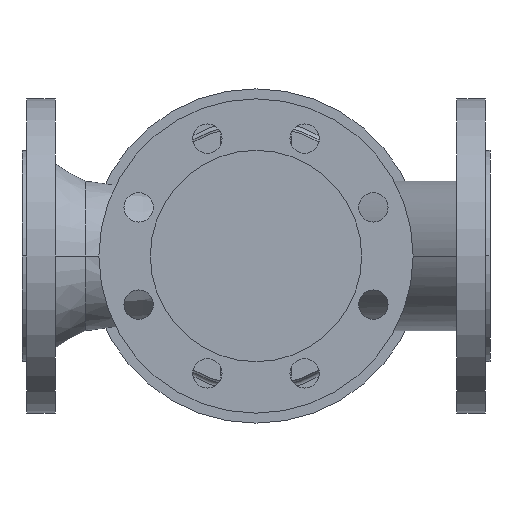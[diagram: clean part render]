
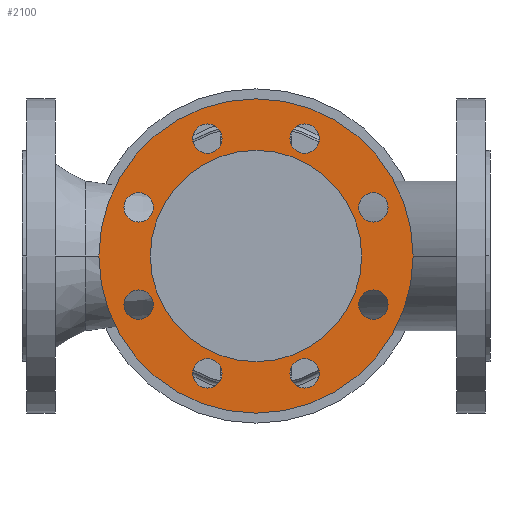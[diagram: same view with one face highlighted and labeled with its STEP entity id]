
A CAD part, front view. The second image highlights one B-rep face of the part: STEP entity #2100.
In plain terms, the highlighted planar face has unit normal (0, -1, 0).
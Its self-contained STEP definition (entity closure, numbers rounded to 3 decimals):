
#550=CARTESIAN_POINT('',(175.,-146.5,0.));
#560=DIRECTION('',(0.,1.,0.));
#570=DIRECTION('',(0.,0.,1.));
#580=AXIS2_PLACEMENT_3D('',#550,#560,#570);
#590=PLANE('',#580);
#600=CARTESIAN_POINT('',(87.231,-146.5,36.355));
#610=DIRECTION('',(0.,1.,0.));
#620=DIRECTION('',(1.,0.,0.));
#630=AXIS2_PLACEMENT_3D('',#600,#610,#620);
#640=CIRCLE('',#630,11.);
#650=CARTESIAN_POINT('',(76.231,-146.5,36.355));
#660=VERTEX_POINT('',#650);
#670=CARTESIAN_POINT('',(98.231,-146.5,36.355));
#680=VERTEX_POINT('',#670);
#690=EDGE_CURVE('',#660,#680,#640,.T.);
#700=ORIENTED_EDGE('',*,*,#690,.T.);
#710=EDGE_CURVE('',#680,#660,#640,.T.);
#720=ORIENTED_EDGE('',*,*,#710,.T.);
#730=EDGE_LOOP('',(#720,#700));
#740=FACE_BOUND('',#730,.T.);
#750=CARTESIAN_POINT('',(87.231,-146.5,-36.355));
#760=DIRECTION('',(0.,1.,0.));
#770=DIRECTION('',(1.,0.,0.));
#780=AXIS2_PLACEMENT_3D('',#750,#760,#770);
#790=CIRCLE('',#780,11.);
#800=CARTESIAN_POINT('',(76.231,-146.5,-36.355));
#810=VERTEX_POINT('',#800);
#820=CARTESIAN_POINT('',(98.231,-146.5,-36.355));
#830=VERTEX_POINT('',#820);
#840=EDGE_CURVE('',#810,#830,#790,.T.);
#850=ORIENTED_EDGE('',*,*,#840,.T.);
#860=EDGE_CURVE('',#830,#810,#790,.T.);
#870=ORIENTED_EDGE('',*,*,#860,.T.);
#880=EDGE_LOOP('',(#870,#850));
#890=FACE_BOUND('',#880,.T.);
#900=CARTESIAN_POINT('',(138.645,-146.5,87.769));
#910=DIRECTION('',(0.,1.,0.));
#920=DIRECTION('',(1.,0.,0.));
#930=AXIS2_PLACEMENT_3D('',#900,#910,#920);
#940=CIRCLE('',#930,11.);
#950=CARTESIAN_POINT('',(149.645,-146.5,87.769));
#960=VERTEX_POINT('',#950);
#970=CARTESIAN_POINT('',(127.645,-146.5,87.769));
#980=VERTEX_POINT('',#970);
#990=EDGE_CURVE('',#960,#980,#940,.T.);
#1000=ORIENTED_EDGE('',*,*,#990,.T.);
#1010=EDGE_CURVE('',#980,#960,#940,.T.);
#1020=ORIENTED_EDGE('',*,*,#1010,.T.);
#1030=EDGE_LOOP('',(#1020,#1000));
#1040=FACE_BOUND('',#1030,.T.);
#1050=CARTESIAN_POINT('',(138.645,-146.5,-87.769));
#1060=DIRECTION('',(0.,1.,0.));
#1070=DIRECTION('',(1.,0.,0.));
#1080=AXIS2_PLACEMENT_3D('',#1050,#1060,#1070);
#1090=CIRCLE('',#1080,11.);
#1100=CARTESIAN_POINT('',(127.645,-146.5,-87.769));
#1110=VERTEX_POINT('',#1100);
#1120=CARTESIAN_POINT('',(149.645,-146.5,-87.769));
#1130=VERTEX_POINT('',#1120);
#1140=EDGE_CURVE('',#1110,#1130,#1090,.T.);
#1150=ORIENTED_EDGE('',*,*,#1140,.T.);
#1160=EDGE_CURVE('',#1130,#1110,#1090,.T.);
#1170=ORIENTED_EDGE('',*,*,#1160,.T.);
#1180=EDGE_LOOP('',(#1170,#1150));
#1190=FACE_BOUND('',#1180,.T.);
#1200=CARTESIAN_POINT('',(211.355,-146.5,87.769));
#1210=DIRECTION('',(0.,1.,0.));
#1220=DIRECTION('',(1.,0.,0.));
#1230=AXIS2_PLACEMENT_3D('',#1200,#1210,#1220);
#1240=CIRCLE('',#1230,11.);
#1250=CARTESIAN_POINT('',(200.355,-146.5,87.769));
#1260=VERTEX_POINT('',#1250);
#1270=CARTESIAN_POINT('',(222.355,-146.5,87.769));
#1280=VERTEX_POINT('',#1270);
#1290=EDGE_CURVE('',#1260,#1280,#1240,.T.);
#1300=ORIENTED_EDGE('',*,*,#1290,.T.);
#1310=EDGE_CURVE('',#1280,#1260,#1240,.T.);
#1320=ORIENTED_EDGE('',*,*,#1310,.T.);
#1330=EDGE_LOOP('',(#1320,#1300));
#1340=FACE_BOUND('',#1330,.T.);
#1350=CARTESIAN_POINT('',(211.355,-146.5,-87.769));
#1360=DIRECTION('',(0.,1.,0.));
#1370=DIRECTION('',(1.,0.,0.));
#1380=AXIS2_PLACEMENT_3D('',#1350,#1360,#1370);
#1390=CIRCLE('',#1380,11.);
#1400=CARTESIAN_POINT('',(200.355,-146.5,-87.769));
#1410=VERTEX_POINT('',#1400);
#1420=CARTESIAN_POINT('',(222.355,-146.5,-87.769));
#1430=VERTEX_POINT('',#1420);
#1440=EDGE_CURVE('',#1410,#1430,#1390,.T.);
#1450=ORIENTED_EDGE('',*,*,#1440,.T.);
#1460=EDGE_CURVE('',#1430,#1410,#1390,.T.);
#1470=ORIENTED_EDGE('',*,*,#1460,.T.);
#1480=EDGE_LOOP('',(#1470,#1450));
#1490=FACE_BOUND('',#1480,.T.);
#1500=CARTESIAN_POINT('',(262.769,-146.5,36.355));
#1510=DIRECTION('',(0.,1.,0.));
#1520=DIRECTION('',(1.,0.,0.));
#1530=AXIS2_PLACEMENT_3D('',#1500,#1510,#1520);
#1540=CIRCLE('',#1530,11.);
#1550=CARTESIAN_POINT('',(273.769,-146.5,36.355));
#1560=VERTEX_POINT('',#1550);
#1570=CARTESIAN_POINT('',(251.769,-146.5,36.355));
#1580=VERTEX_POINT('',#1570);
#1590=EDGE_CURVE('',#1560,#1580,#1540,.T.);
#1600=ORIENTED_EDGE('',*,*,#1590,.T.);
#1610=EDGE_CURVE('',#1580,#1560,#1540,.T.);
#1620=ORIENTED_EDGE('',*,*,#1610,.T.);
#1630=EDGE_LOOP('',(#1620,#1600));
#1640=FACE_BOUND('',#1630,.T.);
#1650=CARTESIAN_POINT('',(262.769,-146.5,-36.355));
#1660=DIRECTION('',(0.,1.,0.));
#1670=DIRECTION('',(1.,0.,0.));
#1680=AXIS2_PLACEMENT_3D('',#1650,#1660,#1670);
#1690=CIRCLE('',#1680,11.);
#1700=CARTESIAN_POINT('',(273.769,-146.5,-36.355));
#1710=VERTEX_POINT('',#1700);
#1720=CARTESIAN_POINT('',(251.769,-146.5,-36.355));
#1730=VERTEX_POINT('',#1720);
#1740=EDGE_CURVE('',#1710,#1730,#1690,.T.);
#1750=ORIENTED_EDGE('',*,*,#1740,.T.);
#1760=EDGE_CURVE('',#1730,#1710,#1690,.T.);
#1770=ORIENTED_EDGE('',*,*,#1760,.T.);
#1780=EDGE_LOOP('',(#1770,#1750));
#1790=FACE_BOUND('',#1780,.T.);
#1800=CARTESIAN_POINT('',(175.,-146.5,0.));
#1810=DIRECTION('',(0.,1.,0.));
#1820=DIRECTION('',(1.,0.,0.));
#1830=AXIS2_PLACEMENT_3D('',#1800,#1810,#1820);
#1840=CIRCLE('',#1830,117.5);
#1850=CARTESIAN_POINT('',(57.5,-146.5,0.));
#1860=VERTEX_POINT('',#1850);
#1870=CARTESIAN_POINT('',(292.5,-146.5,0.));
#1880=VERTEX_POINT('',#1870);
#1890=EDGE_CURVE('',#1860,#1880,#1840,.T.);
#1900=ORIENTED_EDGE('',*,*,#1890,.F.);
#1910=EDGE_CURVE('',#1880,#1860,#1840,.T.);
#1920=ORIENTED_EDGE('',*,*,#1910,.F.);
#1930=EDGE_LOOP('',(#1920,#1900));
#1940=FACE_OUTER_BOUND('',#1930,.T.);
#1950=CARTESIAN_POINT('',(175.,-146.5,0.));
#1960=DIRECTION('',(0.,-1.,0.));
#1970=DIRECTION('',(1.,0.,0.));
#1980=AXIS2_PLACEMENT_3D('',#1950,#1960,#1970);
#1990=CIRCLE('',#1980,79.);
#2000=CARTESIAN_POINT('',(96.,-146.5,0.));
#2010=VERTEX_POINT('',#2000);
#2020=CARTESIAN_POINT('',(254.,-146.5,0.));
#2030=VERTEX_POINT('',#2020);
#2040=EDGE_CURVE('',#2010,#2030,#1990,.T.);
#2050=ORIENTED_EDGE('',*,*,#2040,.F.);
#2060=EDGE_CURVE('',#2030,#2010,#1990,.T.);
#2070=ORIENTED_EDGE('',*,*,#2060,.F.);
#2080=EDGE_LOOP('',(#2070,#2050));
#2090=FACE_BOUND('',#2080,.T.);
#2100=ADVANCED_FACE('',(#740,#890,#1040,#1190,#1340,#1490,#1640,#1790,
#1940,#2090),#590,.F.);
